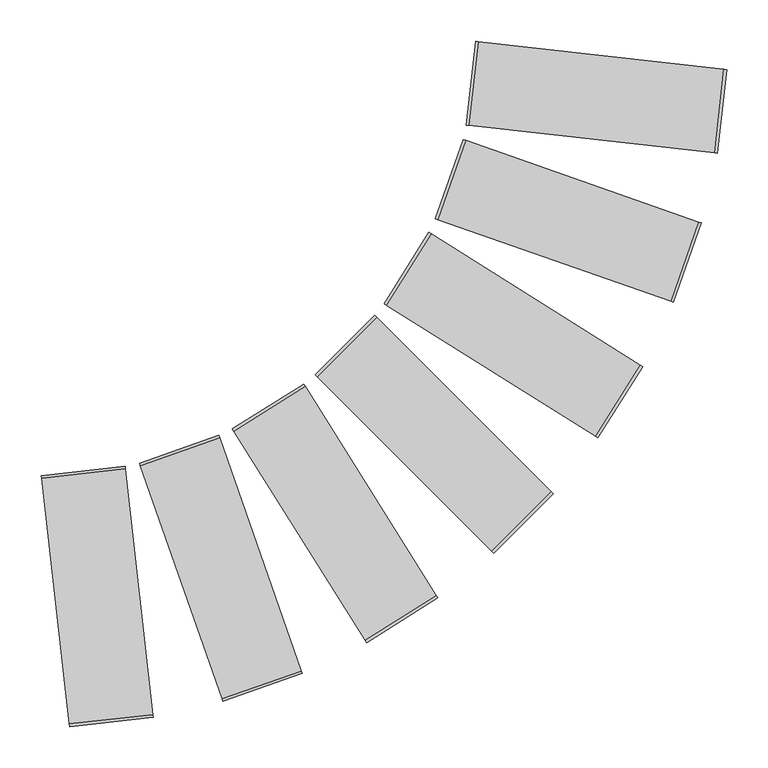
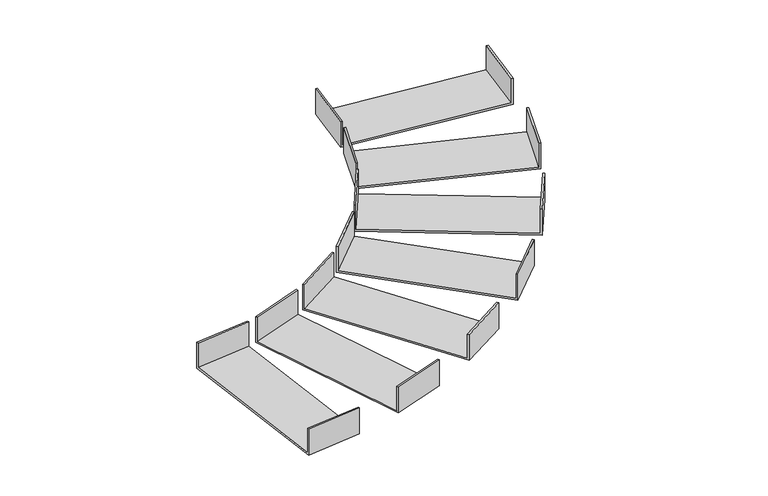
"""IFC4 building model written with IfcOpenShell, lengths in millimetres: cable carrier fitting geometry, Bend-Horizontal-Cablofil-Wire_Mesh_Cable_Tray-Cablobend : Cablobend."""

from ifc_helpers import new_model, si_unit, frame, origin, place, context, project, spatial, polyline, outline, extrude, source, transform, mapped, element, save


def cable_carrier_fitting_4fea7dfd(model_context):
    return source(origin(), model_context, "Body", "SweptSolid", [
        extrude(outline(polyline([(-50.8, 0.0), (0.0, 0.0), (0.0, -304.8), (-50.8, -304.8), (-50.8, -301.625), (-3.175, -301.625), (-3.175, -3.1750001), (-50.8, -3.1750001), (-50.8, 0.0)])), frame((-556.1149778, 165.4318317, -25.4), z_axis=(0.9438833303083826, 0.33027906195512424, 0.0), x_axis=(0.0, 0.0, -1.0)), (0.0, 0.0, 1.0), 101.6),
        extrude(outline(polyline([(-50.8, 0.0), (0.0, 0.0), (0.0, -304.8), (-50.8, -304.8), (-50.8, -301.625), (-3.175, -301.625), (-3.175, -3.175), (-50.8, -3.175), (-50.8, 0.0)])), frame((-444.0050975, 206.7951513, -25.4), z_axis=(0.8467241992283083, 0.532032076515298, 0.0), x_axis=(0.0, 0.0, -1.0)), (0.0, 0.0, 1.0), 101.6),
        extrude(outline(polyline([(-50.8, 0.0), (0.0, 0.0), (0.0, -304.8), (-50.8, -304.8), (-50.8, -301.625), (-3.175, -301.625), (-3.175, -3.175), (-50.8, -3.175), (-50.8, 0.0)])), frame((-343.9102504, 272.0682015, -25.4), z_axis=(0.7071067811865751, 0.7071067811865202, 0.0), x_axis=(0.0, 0.0, -1.0)), (0.0, 0.0, 1.0), 101.6),
        extrude(outline(polyline([(-50.8, 0.0), (0.0, 0.0), (0.0, -304.8), (-50.8, -304.8), (-50.8, -301.625), (-3.175, -301.625), (-3.175, -3.1749999), (-50.8, -3.1749999), (-50.8, 0.0)])), frame((-260.8496103, 357.9779188, -25.4), z_axis=(0.5320320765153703, 0.846724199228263, 0.0), x_axis=(0.0, 0.0, -1.0)), (0.0, 0.0, 1.0), 101.6),
        extrude(outline(polyline([(-50.8, 0.0), (0.0, 0.0), (0.0, -304.8), (-50.8, -304.8), (-50.8, -301.625), (-3.175, -301.625), (-3.175, -3.175), (-50.8, -3.175), (-50.8, 0.0)])), frame((-198.9881844, 460.2164314, -25.4), z_axis=(0.33027906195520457, 0.9438833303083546, 0.0), x_axis=(0.0, 0.0, -1.0)), (0.0, 0.0, 1.0), 101.6),
        extrude(outline(polyline([(-50.8, 0.0), (0.0, 0.0), (0.0, -304.8), (-50.8, -304.8), (-50.8, -301.625), (-3.175, -301.625), (-3.175, -3.175), (-50.8, -3.175), (-50.8, 0.0)])), frame((-674.6182338, 150.0523721, -25.4), z_axis=(0.9937122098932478, 0.1119644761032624, 0.0), x_axis=(0.0, 0.0, -1.0)), (0.0, 0.0, 1.0), 101.6),
        extrude(outline(polyline([(-50.8, 0.0), (0.0, 0.0), (0.0, -304.7999999), (-50.8, -304.7999999), (-50.8, -301.625), (-3.175, -301.625), (-3.175, -3.1749999), (-50.8, -3.1749999), (-50.8, 0.0)])), frame((-161.4279628, 573.6570733, -25.4), z_axis=(0.11196447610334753, 0.9937122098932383, 0.0), x_axis=(0.0, 0.0, -1.0)), (0.0, 0.0, 1.0), 101.6),
    ])


if __name__ == "__main__":
    model = new_model("IFC4")
    model_context = context("Model", 3, world=origin())
    ifc_project = project(units=[si_unit("LENGTHUNIT", "METRE", prefix="MILLI")], contexts=[model_context])
    site = spatial("IfcSite", under=ifc_project)
    building = spatial("IfcBuilding", under=site)
    placement = place(None, origin())
    cable_carrier_fitting_shape = cable_carrier_fitting_4fea7dfd(model_context)
    element("IfcCableCarrierFitting", 1, ObjectType="Bend-Horizontal-Cablofil-Wire_Mesh_Cable_Tray-Cablobend : Cablobend", at=placement, inside=building, context=model_context, shape_type="MappedRepresentation", body=[
        mapped(cable_carrier_fitting_shape, transform((0.0, 0.0, 0.0), x_axis=(1.0, 0.0, 0.0), y_axis=(0.0, 1.0, 0.0), z_axis=(0.0, 0.0, 1.0))),
    ])
    save(model, "model.ifc")
